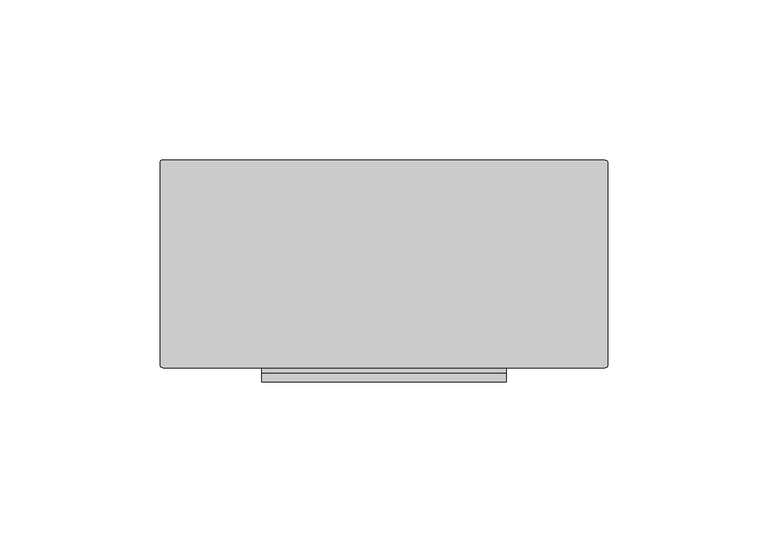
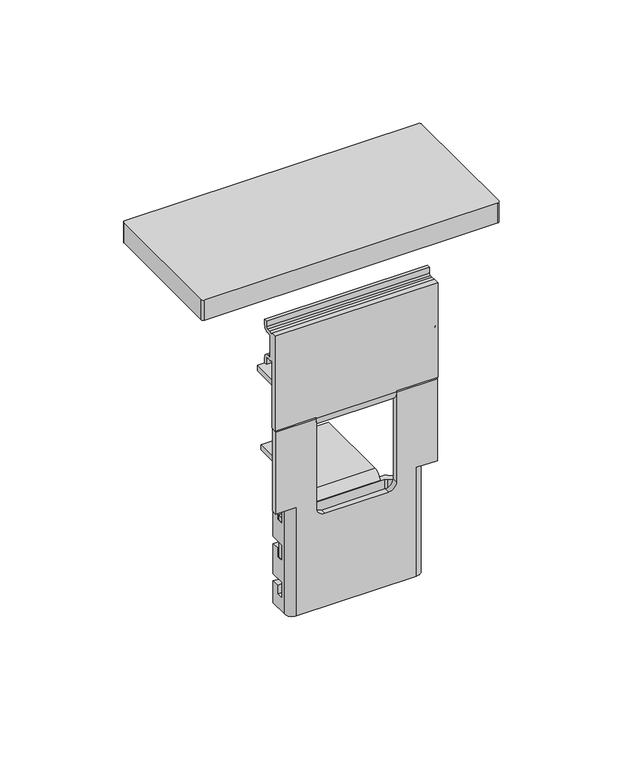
"""IFC4 building model written with IfcOpenShell, lengths in millimetres: furniture geometry, HON - Voi - Dean Power Module Clamp : Dean Power Module Clamp."""

from ifc_helpers import new_model, si_unit, point, frame, frame_2d, origin, place, context, project, spatial, polyline, circle_curve, ellipse_curve, trimmed, segment, composite_curve, outline, extrude, source, transform, mapped, element, save
from ifc_brep_helpers import plane_surface, cylinder_surface, revolved_surface, advanced_brep


def furniture_ea1fc38d(model_context):
    return source(origin(), model_context, "Body", "SolidModel", [
        advanced_brep(
        [(38.2728369, -5.3339995, 802.284387), (38.2728369, -5.3339995, 755.2308638), (38.2728369, -2.6670006, 755.2308638), (38.2728369, -2.6670006, 789.6605936), (38.2728369, -0.5643118, 787.7884211), (38.2728369, 0.9144004, 787.7884211), (38.2728369, 1.7017993, 787.0010222), (38.2728369, 1.7017993, 784.0800719), (38.2728369, 3.2003997, 784.0800719), (38.2728369, 3.2003997, 786.7211557), (38.2728369, 0.6345339, 789.2870215), (38.2728369, -1.1684001, 789.2870215), (38.2728369, -1.1684001, 800.4555742), (38.2728369, 0.6345339, 800.4555742), (38.2728369, 3.2003997, 803.02144), (38.2728369, 3.2003997, 805.6625238), (38.2728369, 1.7017993, 805.6625238), (38.2728369, 1.7017993, 802.7415735), (38.2728369, 0.9144004, 801.9541746), (38.2728369, -0.5643118, 801.9541746), (38.2728369, -2.6670006, 800.0745655), (38.2728369, -2.6670006, 802.284387), (-38.2728369, -2.6670006, 789.6605936), (-38.2728369, -2.6670006, 755.2308638), (-38.2728369, -5.3339995, 755.2308638), (-38.2728369, -5.3339995, 802.284387), (-38.2728369, -2.6670006, 802.284387), (-38.2728369, -2.6670006, 800.0745655), (-38.2728369, -0.5643118, 801.9541746), (-38.2728369, 0.9144004, 801.9541746), (-38.2728369, 1.7017993, 802.7415735), (-38.2728369, 1.7017993, 805.6625238), (-38.2728369, 3.2003997, 805.6625238), (-38.2728369, 3.2003997, 803.02144), (-38.2728369, 0.6345339, 800.4555742), (-38.2728369, -1.1684001, 800.4555742), (-38.2728369, -1.1684001, 789.2870215), (-38.2728369, 0.6345339, 789.2870215), (-38.2728369, 3.2003997, 786.7211557), (-38.2728369, 3.2003997, 784.0800719), (-38.2728369, 1.7017993, 784.0800719), (-38.2728369, 1.7017993, 787.0010222), (-38.2728369, 0.9144004, 787.7884211), (-38.2728369, -0.5643118, 787.7884211), (-18.7960002, -5.3339995, 755.2308638), (-18.7960002, -5.3339995, 754.750809), (18.7960002, -5.3339995, 754.750809), (18.7960002, -5.3339995, 755.2308638), (18.7960002, 0.3731531, 751.9669641), (18.7960002, 42.6838454, 751.9669641), (-18.7960002, 42.6838454, 751.9669641), (-18.7960002, 0.3731531, 751.9669641), (18.7960002, 42.6838454, 749.2999758), (-18.7960002, 42.6838454, 749.2999758), (18.7960002, 0.1168337, 749.2999758), (-18.7960002, 0.1168337, 749.2999758), (18.7960002, -2.6670006, 755.2308638), (18.7960002, -2.6670006, 755.0071178), (-18.7960002, -2.6670006, 755.0071178), (-18.7960002, -2.6670006, 755.2308638)],
        [
            (0, 1),
            (1, 2),
            (2, 3),
            (3, 4, circle_curve(frame((38.2728369, -0.7755579, 789.6680302), z_axis=(1.0, 0.0, 0.0), x_axis=(0.0, -1.0, 0.0)), 1.8914427)),
            (4, 5),
            (5, 6, circle_curve(frame((38.2728369, 0.9144004, 787.0010222), z_axis=(-1.0, 0.0, 0.0), x_axis=(0.0, -1.0, 0.0)), 0.7873989)),
            (6, 7),
            (7, 8),
            (8, 9),
            (9, 10, circle_curve(frame((38.2728369, 0.6345339, 786.7211557), z_axis=(1.0, 0.0, 0.0), x_axis=(0.0, -1.0, 0.0)), 2.5658658)),
            (10, 11),
            (11, 12),
            (12, 13),
            (13, 14, circle_curve(frame((38.2728369, 0.6345339, 803.02144), z_axis=(1.0, 0.0, 0.0), x_axis=(0.0, -1.0, 0.0)), 2.5658658)),
            (14, 15),
            (15, 16),
            (16, 17),
            (17, 18, circle_curve(frame((38.2728369, 0.9144004, 802.7415735), z_axis=(-1.0, 0.0, 0.0), x_axis=(0.0, -1.0, 0.0)), 0.7873989)),
            (18, 19),
            (19, 20, circle_curve(frame((38.2728369, -0.7755579, 800.0745655), z_axis=(1.0, 0.0, 0.0), x_axis=(0.0, -1.0, 0.0)), 1.8914427)),
            (20, 21),
            (21, 0),
            (22, 23),
            (23, 24),
            (24, 25),
            (25, 26),
            (26, 27),
            (27, 28, circle_curve(frame((-38.2728369, -0.7755579, 800.0745655), z_axis=(-1.0, 0.0, 0.0), x_axis=(0.0, -1.0, 0.0)), 1.8914427)),
            (28, 29),
            (29, 30, circle_curve(frame((-38.2728369, 0.9144004, 802.7415735), z_axis=(1.0, 0.0, 0.0), x_axis=(0.0, -1.0, 0.0)), 0.7873989)),
            (30, 31),
            (31, 32),
            (32, 33),
            (33, 34, circle_curve(frame((-38.2728369, 0.6345339, 803.02144), z_axis=(-1.0, 0.0, 0.0), x_axis=(0.0, -1.0, 0.0)), 2.5658658)),
            (34, 35),
            (35, 36),
            (36, 37),
            (37, 38, circle_curve(frame((-38.2728369, 0.6345339, 786.7211557), z_axis=(-1.0, 0.0, 0.0), x_axis=(0.0, -1.0, 0.0)), 2.5658658)),
            (38, 39),
            (39, 40),
            (40, 41),
            (41, 42, circle_curve(frame((-38.2728369, 0.9144004, 787.0010222), z_axis=(1.0, 0.0, 0.0), x_axis=(0.0, -1.0, 0.0)), 0.7873989)),
            (42, 43),
            (43, 22, circle_curve(frame((-38.2728369, -0.7755579, 789.6680302), z_axis=(-1.0, 0.0, 0.0), x_axis=(0.0, -1.0, 0.0)), 1.8914427)),
            (24, 44),
            (44, 45),
            (45, 46),
            (46, 47),
            (47, 1),
            (0, 25),
            (48, 49),
            (49, 50),
            (50, 51),
            (51, 48),
            (49, 52),
            (52, 53),
            (53, 50),
            (52, 54),
            (54, 55),
            (55, 53),
            (2, 56),
            (56, 57),
            (57, 58),
            (58, 59),
            (59, 23),
            (22, 3),
            (45, 55, circle_curve(frame((-18.7960002, 0.1168337, 754.750809), z_axis=(1.0, 0.0, 0.0), x_axis=(0.0, -1.0, 0.0)), 5.4508332)),
            (54, 46, circle_curve(frame((18.7960002, 0.1168337, 754.750809), z_axis=(-1.0, 0.0, 0.0), x_axis=(0.0, -1.0, 0.0)), 5.4508332)),
            (21, 26),
            (20, 27),
            (19, 28),
            (18, 29),
            (17, 30),
            (16, 31),
            (15, 32),
            (14, 33),
            (13, 34),
            (12, 35),
            (11, 36),
            (10, 37),
            (9, 38),
            (8, 39),
            (7, 40),
            (6, 41),
            (5, 42),
            (4, 43),
            (51, 58, circle_curve(frame((-18.7960002, 0.3731531, 755.0071178), z_axis=(-1.0, 0.0, 0.0), x_axis=(0.0, -1.0, 0.0)), 3.0401537)),
            (57, 48, circle_curve(frame((18.7960002, 0.3731531, 755.0071178), z_axis=(1.0, 0.0, 0.0), x_axis=(0.0, -1.0, 0.0)), 3.0401537)),
            (59, 44),
            (47, 56),
        ],
        [
            plane_surface(frame((38.2728369, -4.9889466, 749.2999758), z_axis=(1.0, 0.0, 0.0), x_axis=(0.0, -1.0, 0.0))),
            plane_surface(frame((-38.2728369, -4.9889466, 749.2999758), z_axis=(-1.0, 0.0, 0.0), x_axis=(0.0, 1.0, 0.0))),
            plane_surface(frame((38.2728369, -5.3339995, 754.750809), z_axis=(0.0, -1.0, 0.0), x_axis=(-1.0, 0.0, 0.0))),
            plane_surface(frame((38.2728369, 0.3731531, 751.9669641), z_axis=(0.0, 0.0, 1.0), x_axis=(-1.0, 0.0, 0.0))),
            plane_surface(frame((38.2728369, 42.6838454, 751.9669641), z_axis=(0.0, 1.0, 0.0), x_axis=(-1.0, 0.0, 0.0))),
            plane_surface(frame((38.2728369, 42.6838454, 749.2999758), z_axis=(0.0, 0.0, -1.0), x_axis=(-1.0, 0.0, 0.0))),
            plane_surface(frame((38.2728369, -2.6670006, 789.6605936), z_axis=(0.0, 1.0, 0.0), x_axis=(-1.0, 0.0, 0.0))),
            cylinder_surface(frame((-38.2728369, 0.1168337, 754.750809), z_axis=(1.0, 0.0, 0.0), x_axis=(0.0, -1.0, 0.0)), 5.4508332),
            plane_surface(frame((38.2728369, -5.3339995, 802.284387), z_axis=(0.0, 0.0, 1.0), x_axis=(-1.0, 0.0, 0.0))),
            plane_surface(frame((38.2728369, -2.6670006, 802.284387), z_axis=(0.0, 1.0, 0.0), x_axis=(-1.0, 0.0, 0.0))),
            cylinder_surface(frame((-38.2728369, -0.7755579, 800.0745655), z_axis=(1.0, 0.0, 0.0), x_axis=(0.0, -1.0, 0.0)), 1.8914427),
            plane_surface(frame((38.2728369, -0.5643118, 801.9541746), z_axis=(0.0, 0.0, 1.0), x_axis=(-1.0, 0.0, 0.0))),
            revolved_surface(polyline([(-38.2728369, 0.1270015, 802.7415735), (38.2728369, 0.1270015, 802.7415735)]), (-38.2728369, 0.9144004, 802.7415735), (-1.0, 0.0, 0.0)),
            plane_surface(frame((38.2728369, 1.7017993, 802.7415735), z_axis=(0.0, -1.0, 0.0), x_axis=(-1.0, 0.0, 0.0))),
            plane_surface(frame((38.2728369, 1.7017993, 805.6625238), z_axis=(0.0, 0.0, 1.0), x_axis=(-1.0, 0.0, 0.0))),
            plane_surface(frame((38.2728369, 3.2003997, 805.6625238), z_axis=(0.0, 1.0, 0.0), x_axis=(-1.0, 0.0, 0.0))),
            cylinder_surface(frame((-38.2728369, 0.6345339, 803.02144), z_axis=(1.0, 0.0, 0.0), x_axis=(0.0, -1.0, 0.0)), 2.5658658),
            plane_surface(frame((38.2728369, 0.6345339, 800.4555742), z_axis=(0.0, 0.0, -1.0), x_axis=(-1.0, 0.0, 0.0))),
            plane_surface(frame((38.2728369, -1.1684001, 800.4555742), z_axis=(0.0, 1.0, 0.0), x_axis=(-1.0, 0.0, 0.0))),
            plane_surface(frame((38.2728369, -1.1684001, 789.2870215), z_axis=(0.0, 0.0, 1.0), x_axis=(-1.0, 0.0, 0.0))),
            cylinder_surface(frame((-38.2728369, 0.6345339, 786.7211557), z_axis=(1.0, 0.0, 0.0), x_axis=(0.0, -1.0, 0.0)), 2.5658658),
            plane_surface(frame((38.2728369, 3.2003997, 786.7211557), z_axis=(0.0, 1.0, 0.0), x_axis=(-1.0, 0.0, 0.0))),
            plane_surface(frame((38.2728369, 3.2003997, 784.0800719), z_axis=(0.0, 0.0, -1.0), x_axis=(-1.0, 0.0, 0.0))),
            plane_surface(frame((38.2728369, 1.7017993, 784.0800719), z_axis=(0.0, -1.0, 0.0), x_axis=(-1.0, 0.0, 0.0))),
            revolved_surface(polyline([(-38.2728369, 0.1270015, 787.0010222), (38.2728369, 0.1270015, 787.0010222)]), (-38.2728369, 0.9144004, 787.0010222), (-1.0, 0.0, 0.0)),
            plane_surface(frame((38.2728369, 0.9144004, 787.7884211), z_axis=(0.0, 0.0, -1.0), x_axis=(-1.0, 0.0, 0.0))),
            cylinder_surface(frame((-38.2728369, -0.7755579, 789.6680302), z_axis=(1.0, 0.0, 0.0), x_axis=(0.0, -1.0, 0.0)), 1.8914427),
            revolved_surface(polyline([(-18.7960002, -2.6670005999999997, 755.0071178), (18.7960002, -2.6670005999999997, 755.0071178)]), (-38.2728369, 0.3731531, 755.0071178), (-1.0, 0.0, 0.0)),
            plane_surface(frame((-18.7960002, -9.9693452, 755.2308638), z_axis=(0.0, 0.0, -1.0), x_axis=(-1.0, 0.0, 0.0))),
            plane_surface(frame((-18.7960002, 47.1806548, 755.2308638), z_axis=(-1.0, 0.0, 0.0), x_axis=(0.0, 0.0, -1.0))),
            plane_surface(frame((18.7960002, -9.9693452, 755.2308638), z_axis=(1.0, 0.0, 0.0), x_axis=(0.0, 0.0, -1.0))),
        ],
        [
            (0, [[1, 2, 3, 4, 5, 6, 7, 8, 9, 10, 11, 12, 13, 14, 15, 16, 17, 18, 19, 20, 21, 22]]),
            (1, [[23, 24, 25, 26, 27, 28, 29, 30, 31, 32, 33, 34, 35, 36, 37, 38, 39, 40, 41, 42, 43, 44]]),
            (2, [[-25, 45, 46, 47, 48, 49, -1, 50]]),
            (3, [[51, 52, 53, 54]]),
            (4, [[55, 56, 57, -52]]),
            (5, [[58, 59, 60, -56]]),
            (6, [[-3, 61, 62, 63, 64, 65, -23, 66]]),
            (7, [[67, -59, 68, -47]]),
            (8, [[69, -26, -50, -22]]),
            (9, [[70, -27, -69, -21]]),
            (10, [[71, -28, -70, -20]]),
            (11, [[72, -29, -71, -19]]),
            (12, [[73, -30, -72, -18]]),
            (13, [[74, -31, -73, -17]]),
            (14, [[75, -32, -74, -16]]),
            (15, [[76, -33, -75, -15]]),
            (16, [[77, -34, -76, -14]]),
            (17, [[78, -35, -77, -13]]),
            (18, [[79, -36, -78, -12]]),
            (19, [[80, -37, -79, -11]]),
            (20, [[81, -38, -80, -10]]),
            (21, [[82, -39, -81, -9]]),
            (22, [[83, -40, -82, -8]]),
            (23, [[84, -41, -83, -7]]),
            (24, [[85, -42, -84, -6]]),
            (25, [[86, -43, -85, -5]]),
            (26, [[-66, -44, -86, -4]]),
            (27, [[87, -63, 88, -54]]),
            (28, [[-45, -24, -65, 89]]),
            (28, [[-61, -2, -49, 90]]),
            (29, [[-64, -87, -53, -57, -60, -67, -46, -89]]),
            (30, [[-48, -68, -58, -55, -51, -88, -62, -90]]),
        ],
    ),
        extrude(outline(composite_curve([segment(polyline([(-68.9838368, 64.0695505), (68.9857812, 63.9343572)]), True, "CONTINUOUS"), segment(trimmed(circle_curve(frame_2d((68.984809, 62.9421701)), 0.9921875), [point((68.9857812, 63.9343572))], [point((69.9769965, 62.9421702))], False, "CARTESIAN"), True, "CONTINUOUS"), segment(polyline([(69.9769965, 62.9421702), (69.9770017, 0.0777903)]), True, "CONTINUOUS"), segment(trimmed(circle_curve(frame_2d((68.9848142, 0.0777902)), 0.9921875), [point((69.9770017, 0.0777903))], [point((68.9848142, -0.9143973))], False, "CARTESIAN"), True, "CONTINUOUS"), segment(polyline([(68.9848142, -0.9143973), (-68.975684, -0.9143973)]), True, "CONTINUOUS"), segment(trimmed(circle_curve(frame_2d((-68.975684, 0.0869204)), 1.0013177), [point((-68.975684, -0.9143973))], [point((-69.9770017, 0.0869205))], False, "CARTESIAN"), True, "CONTINUOUS"), segment(polyline([(-69.9770017, 0.0869205), (-69.9769965, 63.0773635)]), True, "CONTINUOUS"), segment(trimmed(circle_curve(frame_2d((-68.984809, 63.0773634)), 0.9921875), [point((-69.9769965, 63.0773635))], [point((-68.9838368, 64.0695505))], False, "CARTESIAN"), True, "CONTINUOUS")], self_intersect=False)), frame((0.0, 0.0, 818.4671973), z_axis=(0.0, 0.0, 1.0), x_axis=(1.0, 0.0, 0.0)), (0.0, 0.0, 1.0), 10.0373406),
        advanced_brep(
        [(-38.1, -2.6670006, 713.8669641), (-38.1, -5.3339995, 713.8669641), (-38.1, -5.3339995, 754.6339525), (-38.1, -2.6670006, 754.6339525), (-18.8083569, -2.6670006, 710.0172476), (-18.8083569, -2.6670006, 754.6339525), (-18.8083569, -5.3339995, 754.6339525), (-18.8083569, -5.3339995, 710.0172476), (18.8083569, -2.6670006, 754.6339525), (18.8083569, -5.3339995, 754.6339525), (38.1, -5.3339995, 754.6339525), (38.1, -2.6670006, 754.6339525), (18.8083569, -2.6670006, 710.0463545), (18.8083569, -5.3339995, 710.0463545), (38.1, -5.3339995, 713.8669641), (38.1, -2.6670006, 713.8669641), (-31.7547921, -2.6670006, 713.8669641), (-28.2804197, -5.3339995, 713.8669641), (28.2804197, -5.3339995, 713.8669641), (31.7547921, -2.6670006, 713.8669641), (-15.0380444, -5.3339995, 706.2469351), (-15.0380444, -2.6670006, 706.2469351), (15.0089375, -5.3339995, 706.2469351), (15.0089375, -2.6670006, 706.2469351), (-29.2099994, -1.5345572, 713.8669641), (-29.2099994, 0.2539998, 713.8669641), (-31.8769991, 0.2539998, 713.8669641), (-31.8769991, -1.7374201, 713.8669641), (-28.077556, -2.6670006, 713.8669641), (28.077556, -2.6670006, 713.8669641), (31.8769991, -1.7374201, 713.8669641), (31.8769991, 0.2539998, 713.8669641), (29.2099994, 0.2539998, 713.8669641), (29.2099994, -1.5345572, 713.8669641), (-29.2099994, -1.5345572, 659.8919884), (-28.077556, -2.6670006, 659.8919884), (28.077556, -2.6670006, 659.8919884), (29.2099994, -1.5345572, 659.8919884), (29.2099994, 7.3659998, 659.8919884), (31.8769991, 7.3659998, 659.8919884), (31.8769991, -1.7374201, 659.8919884), (28.2804197, -5.3339995, 659.8919884), (-28.2804197, -5.3339995, 659.8919884), (-31.8769991, -1.7374201, 659.8919884), (-31.8769991, 7.3659998, 659.8919884), (-29.2099994, 7.3659998, 659.8919884), (29.2099994, 0.2539998, 703.5799467), (29.2099994, 3.8100009, 703.5799467), (29.2099994, 3.8100009, 707.8979971), (29.2099994, 7.3659998, 707.8979971), (29.2099994, 7.3659998, 692.9119932), (29.2099994, 0.2539998, 692.9119932), (29.2099994, 0.2539998, 685.0379099), (29.2099994, 3.8100009, 685.0379099), (29.2099994, 3.8100009, 689.3559603), (29.2099994, 7.3659998, 689.3559603), (29.2099994, 7.3659998, 674.3699564), (29.2099994, 0.2539998, 674.3699564), (29.2099994, 0.2539998, 666.4958731), (29.2099994, 3.8100009, 666.4958731), (29.2099994, 3.8100009, 670.8139235), (29.2099994, 7.3659998, 670.8139235), (31.8769991, 7.3659998, 670.8139235), (31.8769991, 7.3659998, 689.3559603), (31.8769991, 7.3659998, 674.3699564), (31.8769991, 7.3659998, 707.8979971), (31.8769991, 7.3659998, 692.9119932), (31.8769991, 3.8100009, 670.8139235), (31.8769991, 3.8100009, 666.4958731), (31.8769991, 0.2539998, 666.4958731), (31.8769991, 0.2539998, 674.3699564), (31.8769991, 3.8100009, 689.3559603), (31.8769991, 3.8100009, 685.0379099), (31.8769991, 0.2539998, 685.0379099), (31.8769991, 0.2539998, 692.9119932), (31.8769991, 3.8100009, 707.8979971), (31.8769991, 3.8100009, 703.5799467), (31.8769991, 0.2539998, 703.5799467), (-31.8769991, 0.2539998, 703.5799467), (-31.8769991, 3.8100009, 703.5799467), (-31.8769991, 3.8100009, 707.8979971), (-31.8769991, 7.3659998, 707.8979971), (-31.8769991, 7.3659998, 692.9119932), (-31.8769991, 0.2539998, 692.9119932), (-31.8769991, 0.2539998, 685.0379099), (-31.8769991, 3.8100009, 685.0379099), (-31.8769991, 3.8100009, 689.3559603), (-31.8769991, 7.3659998, 689.3559603), (-31.8769991, 7.3659998, 674.3699564), (-31.8769991, 0.2539998, 674.3699564), (-31.8769991, 0.2539998, 666.4958731), (-31.8769991, 3.8100009, 666.4958731), (-31.8769991, 3.8100009, 670.8139235), (-31.8769991, 7.3659998, 670.8139235), (-29.2099994, 7.3659998, 670.8139235), (-29.2099994, 7.3659998, 689.3559603), (-29.2099994, 7.3659998, 674.3699564), (-29.2099994, 7.3659998, 707.8979971), (-29.2099994, 7.3659998, 692.9119932), (-29.2099994, 3.8100009, 670.8139235), (-29.2099994, 3.8100009, 666.4958731), (-29.2099994, 0.2539998, 666.4958731), (-29.2099994, 0.2539998, 674.3699564), (-29.2099994, 3.8100009, 689.3559603), (-29.2099994, 3.8100009, 685.0379099), (-29.2099994, 0.2539998, 685.0379099), (-29.2099994, 0.2539998, 692.9119932), (-29.2099994, 3.8100009, 707.8979971), (-29.2099994, 3.8100009, 703.5799467), (-29.2099994, 0.2539998, 703.5799467)],
        [
            (0, 1),
            (1, 2),
            (2, 3),
            (3, 0),
            (4, 5),
            (5, 6),
            (6, 7),
            (7, 4),
            (2, 6),
            (5, 3),
            (8, 9),
            (9, 10),
            (10, 11),
            (11, 8),
            (8, 12),
            (12, 13),
            (13, 9),
            (10, 14),
            (14, 15),
            (15, 11),
            (0, 16),
            (16, 17, circle_curve(frame((-28.2804197, -1.7374201, 713.8669641), z_axis=(0.0, 0.0, 1.0), x_axis=(1.0, 0.0, 0.0)), 3.5965794)),
            (17, 1),
            (14, 18),
            (18, 19, circle_curve(frame((28.2804197, -1.7374201, 713.8669641), z_axis=(0.0, 0.0, 1.0), x_axis=(-1.0, 0.0, 0.0)), 3.5965794)),
            (19, 15),
            (7, 20, circle_curve(frame((-15.0380444, -5.3339995, 710.0172476), z_axis=(0.0, -1.0, 0.0), x_axis=(1.0, 0.0, 0.0)), 3.7703125)),
            (20, 21),
            (21, 4, circle_curve(frame((-15.0380444, -2.6670006, 710.0172476), z_axis=(0.0, 1.0, 0.0), x_axis=(1.0, 0.0, 0.0)), 3.7703125)),
            (20, 22),
            (22, 23),
            (23, 21),
            (22, 13, circle_curve(frame((15.0089375, -5.3339995, 710.0463545), z_axis=(0.0, -1.0, 0.0), x_axis=(1.0, 0.0, 0.0)), 3.7994194)),
            (12, 23, circle_curve(frame((15.0089375, -2.6670006, 710.0463545), z_axis=(0.0, 1.0, 0.0), x_axis=(1.0, 0.0, 0.0)), 3.7994194)),
            (24, 25),
            (25, 26),
            (26, 27),
            (27, 16, circle_curve(frame((-28.2804197, -1.7374201, 713.8669641), z_axis=(0.0, 0.0, 1.0), x_axis=(1.0, 0.0, 0.0)), 3.5965794)),
            (16, 28),
            (28, 24, circle_curve(frame((-28.077556, -1.5345572, 713.8669641), z_axis=(0.0, 0.0, -1.0), x_axis=(1.0, 0.0, 0.0)), 1.1324434)),
            (29, 19),
            (19, 30, circle_curve(frame((28.2804197, -1.7374201, 713.8669641), z_axis=(0.0, 0.0, 1.0), x_axis=(-1.0, 0.0, 0.0)), 3.5965794)),
            (30, 31),
            (31, 32),
            (32, 33),
            (33, 29, circle_curve(frame((28.077556, -1.5345572, 713.8669641), z_axis=(0.0, 0.0, -1.0), x_axis=(-1.0, 0.0, 0.0)), 1.1324434)),
            (34, 35, circle_curve(frame((-28.077556, -1.5345572, 659.8919884), z_axis=(0.0, 0.0, 1.0), x_axis=(1.0, 0.0, 0.0)), 1.1324434)),
            (35, 36),
            (36, 37, circle_curve(frame((28.077556, -1.5345572, 659.8919884), z_axis=(0.0, 0.0, 1.0), x_axis=(-1.0, 0.0, 0.0)), 1.1324434)),
            (37, 38),
            (38, 39),
            (39, 40),
            (40, 41, circle_curve(frame((28.2804197, -1.7374201, 659.8919884), z_axis=(0.0, 0.0, -1.0), x_axis=(-1.0, 0.0, 0.0)), 3.5965794)),
            (41, 42),
            (42, 43, circle_curve(frame((-28.2804197, -1.7374201, 659.8919884), z_axis=(0.0, 0.0, -1.0), x_axis=(1.0, 0.0, 0.0)), 3.5965794)),
            (43, 44),
            (44, 45),
            (45, 34),
            (28, 35),
            (34, 24),
            (29, 36),
            (33, 37),
            (32, 46),
            (46, 47),
            (47, 48),
            (48, 49),
            (49, 50),
            (50, 51),
            (51, 52),
            (52, 53),
            (53, 54),
            (54, 55),
            (55, 56),
            (56, 57),
            (57, 58),
            (58, 59),
            (59, 60),
            (60, 61),
            (61, 38),
            (61, 62),
            (62, 39),
            (55, 63),
            (63, 64),
            (64, 56),
            (49, 65),
            (65, 66),
            (66, 50),
            (62, 67),
            (67, 68),
            (68, 69),
            (69, 70),
            (70, 64),
            (63, 71),
            (71, 72),
            (72, 73),
            (73, 74),
            (74, 66),
            (65, 75),
            (75, 76),
            (76, 77),
            (77, 31),
            (30, 40),
            (18, 41),
            (17, 42),
            (27, 43),
            (26, 78),
            (78, 79),
            (79, 80),
            (80, 81),
            (81, 82),
            (82, 83),
            (83, 84),
            (84, 85),
            (85, 86),
            (86, 87),
            (87, 88),
            (88, 89),
            (89, 90),
            (90, 91),
            (91, 92),
            (92, 93),
            (93, 44),
            (93, 94),
            (94, 45),
            (87, 95),
            (95, 96),
            (96, 88),
            (81, 97),
            (97, 98),
            (98, 82),
            (94, 99),
            (99, 100),
            (100, 101),
            (101, 102),
            (102, 96),
            (95, 103),
            (103, 104),
            (104, 105),
            (105, 106),
            (106, 98),
            (97, 107),
            (107, 108),
            (108, 109),
            (109, 25),
            (47, 76),
            (75, 48),
            (79, 108),
            (107, 80),
            (46, 77),
            (78, 109),
            (54, 71),
            (86, 103),
            (53, 72),
            (85, 104),
            (52, 73),
            (84, 105),
            (51, 74),
            (83, 106),
            (60, 67),
            (92, 99),
            (59, 68),
            (91, 100),
            (58, 69),
            (90, 101),
            (57, 70),
            (89, 102),
        ],
        [
            plane_surface(frame((-38.1, -2.6670006, 754.6339525), z_axis=(-1.0, 0.0, 0.0), x_axis=(0.0, -1.0, 0.0))),
            plane_surface(frame((-18.8083569, -2.6670006, 713.8669641), z_axis=(1.0, 0.0, 0.0), x_axis=(0.0, -1.0, 0.0))),
            plane_surface(frame((-18.8083569, -2.6670006, 754.6339525), z_axis=(0.0, 0.0, 1.0), x_axis=(0.0, -1.0, 0.0))),
            plane_surface(frame((38.1, -2.6670006, 754.6339525), z_axis=(0.0, 0.0, 1.0), x_axis=(0.0, -1.0, 0.0))),
            plane_surface(frame((18.8083569, -2.6670006, 754.6339525), z_axis=(-1.0, 0.0, 0.0), x_axis=(0.0, -1.0, 0.0))),
            plane_surface(frame((38.1, -2.6670006, 713.8669641), z_axis=(1.0, 0.0, 0.0), x_axis=(0.0, -1.0, 0.0))),
            plane_surface(frame((-38.1, -2.6670006, 713.8669641), z_axis=(0.0, 0.0, -1.0), x_axis=(0.0, -1.0, 0.0))),
            plane_surface(frame((18.8083569, -2.6670006, 713.8669641), z_axis=(0.0, 0.0, -1.0), x_axis=(0.0, -1.0, 0.0))),
            revolved_surface(polyline([(-11.267731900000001, -2.6670006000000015, 710.0172476), (-11.267731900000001, -5.333999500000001, 710.0172476)]), (-15.0380444, -18.6836548, 710.0172476), (0.0, 1.0, 0.0)),
            plane_surface(frame((-15.0380444, 0.0, 706.2469351), z_axis=(0.0, 0.0, 1.0), x_axis=(0.0, -1.0, 0.0))),
            revolved_surface(polyline([(18.8083569, -2.6670006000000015, 710.0463545), (18.8083569, -5.333999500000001, 710.0463545)]), (15.0089375, -18.6836548, 710.0463545), (0.0, 1.0, 0.0)),
            plane_surface(frame((-26.9451127, -1.5345572, 713.8669641), z_axis=(0.0, 0.0, 1.0), x_axis=(0.0, 1.0, 0.0))),
            plane_surface(frame((-26.9451127, -1.5345572, 659.8919884), z_axis=(0.0, 0.0, -1.0), x_axis=(0.0, -1.0, 0.0))),
            revolved_surface(polyline([(-26.9451126, -1.5345572, 659.8919884), (-26.9451126, -1.5345572, 713.8669641)]), (-28.077556, -1.5345572, 659.8919884), (0.0, 0.0, -1.0)),
            plane_surface(frame((-28.077556, -2.6670006, 713.8669641), z_axis=(0.0, 1.0, 0.0), x_axis=(0.0, 0.0, -1.0))),
            revolved_surface(polyline([(26.9451126, -1.5345572, 659.8919884), (26.9451126, -1.5345572, 713.8669641)]), (28.077556, -1.5345572, 659.8919884), (0.0, 0.0, -1.0)),
            plane_surface(frame((29.2099994, -1.5345572, 713.8669641), z_axis=(-1.0, 0.0, 0.0), x_axis=(0.0, 0.0, -1.0))),
            plane_surface(frame((29.2099994, 7.3659998, 713.8669641), z_axis=(0.0, 1.0, 0.0), x_axis=(0.0, 0.0, -1.0))),
            plane_surface(frame((31.8769991, 7.3659998, 713.8669641), z_axis=(1.0, 0.0, 0.0), x_axis=(0.0, 0.0, -1.0))),
            cylinder_surface(frame((28.2804197, -1.7374201, 659.8919884), z_axis=(0.0, 0.0, 1.0), x_axis=(-1.0, 0.0, 0.0)), 3.5965794),
            plane_surface(frame((28.2804197, -5.3339995, 713.8669641), z_axis=(0.0, -1.0, 0.0), x_axis=(0.0, 0.0, -1.0))),
            cylinder_surface(frame((-28.2804197, -1.7374201, 659.8919884), z_axis=(0.0, 0.0, 1.0), x_axis=(1.0, 0.0, 0.0)), 3.5965794),
            plane_surface(frame((-31.8769991, -1.7374201, 713.8669641), z_axis=(-1.0, 0.0, 0.0), x_axis=(0.0, 0.0, -1.0))),
            plane_surface(frame((-31.8769991, 7.3659998, 713.8669641), z_axis=(0.0, 1.0, 0.0), x_axis=(0.0, 0.0, -1.0))),
            plane_surface(frame((-29.2099994, 7.3659998, 713.8669641), z_axis=(1.0, 0.0, 0.0), x_axis=(0.0, 0.0, -1.0))),
            plane_surface(frame((57.3484768, 3.8100009, 707.8979971), z_axis=(0.0, -1.0, 0.0), x_axis=(-1.0, 0.0, 0.0))),
            plane_surface(frame((57.3484768, 3.8100009, 703.5799467), z_axis=(0.0, 0.0, 1.0), x_axis=(-1.0, 0.0, 0.0))),
            plane_surface(frame((57.3484768, 0.2539998, 703.5799467), z_axis=(0.0, 1.0, 0.0), x_axis=(-1.0, 0.0, 0.0))),
            plane_surface(frame((57.3484768, 7.3659998, 707.8979971), z_axis=(0.0, 0.0, 1.0), x_axis=(-1.0, 0.0, 0.0))),
            plane_surface(frame((57.3484768, 7.3659998, 689.3559603), z_axis=(0.0, 0.0, 1.0), x_axis=(-1.0, 0.0, 0.0))),
            plane_surface(frame((57.3484768, 3.8100009, 689.3559603), z_axis=(0.0, -1.0, 0.0), x_axis=(-1.0, 0.0, 0.0))),
            plane_surface(frame((57.3484768, 3.8100009, 685.0379099), z_axis=(0.0, 0.0, 1.0), x_axis=(-1.0, 0.0, 0.0))),
            plane_surface(frame((57.3484768, 0.2539998, 685.0379099), z_axis=(0.0, 1.0, 0.0), x_axis=(-1.0, 0.0, 0.0))),
            plane_surface(frame((57.3484768, 0.2539998, 692.9119932), z_axis=(0.0, 0.0, -1.0), x_axis=(-1.0, 0.0, 0.0))),
            plane_surface(frame((57.3484768, 7.3659998, 670.8139235), z_axis=(0.0, 0.0, 1.0), x_axis=(-1.0, 0.0, 0.0))),
            plane_surface(frame((57.3484768, 3.8100009, 670.8139235), z_axis=(0.0, -1.0, 0.0), x_axis=(-1.0, 0.0, 0.0))),
            plane_surface(frame((57.3484768, 3.8100009, 666.4958731), z_axis=(0.0, 0.0, 1.0), x_axis=(-1.0, 0.0, 0.0))),
            plane_surface(frame((57.3484768, 0.2539998, 666.4958731), z_axis=(0.0, 1.0, 0.0), x_axis=(-1.0, 0.0, 0.0))),
            plane_surface(frame((57.3484768, 0.2539998, 674.3699564), z_axis=(0.0, 0.0, -1.0), x_axis=(-1.0, 0.0, 0.0))),
        ],
        [
            (0, [[1, 2, 3, 4]]),
            (1, [[5, 6, 7, 8]]),
            (2, [[-3, 9, -6, 10]]),
            (3, [[11, 12, 13, 14]]),
            (4, [[15, 16, 17, -11]]),
            (5, [[-13, 18, 19, 20]]),
            (6, [[21, 22, 23, -1]]),
            (7, [[24, 25, 26, -19]]),
            (8, [[27, 28, 29, -8]]),
            (9, [[30, 31, 32, -28]]),
            (10, [[33, -16, 34, -31]]),
            (11, [[35, 36, 37, 38, 39, 40]]),
            (11, [[41, 42, 43, 44, 45, 46]]),
            (12, [[47, 48, 49, 50, 51, 52, 53, 54, 55, 56, 57, 58]]),
            (13, [[59, -47, 60, -40]]),
            (14, [[-59, -39, -21, -4, -10, -5, -29, -32, -34, -15, -14, -20, -26, -41, 61, -48]]),
            (15, [[62, -49, -61, -46]]),
            (16, [[-62, -45, 63, 64, 65, 66, 67, 68, 69, 70, 71, 72, 73, 74, 75, 76, 77, 78, 79, -50]]),
            (17, [[-79, 80, 81, -51]]),
            (17, [[82, 83, 84, -73]]),
            (17, [[85, 86, 87, -67]]),
            (18, [[-81, 88, 89, 90, 91, 92, -83, 93, 94, 95, 96, 97, -86, 98, 99, 100, 101, -43, 102, -52]]),
            (19, [[-102, -42, -25, 103, -53]]),
            (20, [[-103, -24, -18, -12, -17, -33, -30, -27, -7, -9, -2, -23, 104, -54]]),
            (21, [[-104, -22, -38, 105, -55]]),
            (22, [[-105, -37, 106, 107, 108, 109, 110, 111, 112, 113, 114, 115, 116, 117, 118, 119, 120, 121, 122, -56]]),
            (23, [[-122, 123, 124, -57]]),
            (23, [[125, 126, 127, -116]]),
            (23, [[128, 129, 130, -110]]),
            (24, [[-124, 131, 132, 133, 134, 135, -126, 136, 137, 138, 139, 140, -129, 141, 142, 143, 144, -35, -60, -58]]),
            (25, [[-65, 145, -99, 146]]),
            (25, [[-108, 147, -142, 148]]),
            (26, [[-64, 149, -100, -145]]),
            (26, [[-107, 150, -143, -147]]),
            (27, [[-63, -44, -101, -149]]),
            (27, [[-106, -36, -144, -150]]),
            (28, [[-98, -85, -66, -146]]),
            (28, [[-141, -128, -109, -148]]),
            (29, [[-93, -82, -72, 151]]),
            (29, [[-136, -125, -115, 152]]),
            (30, [[-71, 153, -94, -151]]),
            (30, [[-114, 154, -137, -152]]),
            (31, [[-70, 155, -95, -153]]),
            (31, [[-113, 156, -138, -154]]),
            (32, [[-69, 157, -96, -155]]),
            (32, [[-112, 158, -139, -156]]),
            (33, [[-68, -87, -97, -157]]),
            (33, [[-111, -130, -140, -158]]),
            (34, [[-88, -80, -78, 159]]),
            (34, [[-131, -123, -121, 160]]),
            (35, [[-77, 161, -89, -159]]),
            (35, [[-120, 162, -132, -160]]),
            (36, [[-76, 163, -90, -161]]),
            (36, [[-119, 164, -133, -162]]),
            (37, [[-75, 165, -91, -163]]),
            (37, [[-118, 166, -134, -164]]),
            (38, [[-74, -84, -92, -165]]),
            (38, [[-117, -127, -135, -166]]),
        ],
    ),
        extrude(outline(composite_curve([segment(polyline([(-18.7745759, 5.8588902), (18.7745759, 5.8588902)]), True, "CONTINUOUS"), segment(trimmed(circle_curve(frame_2d((18.7745759, 2.701767)), 3.1571232), [point((18.7745759, 5.8588902))], [point((20.6965126, 5.2064798))], False, "CARTESIAN"), True, "CONTINUOUS"), segment(polyline([(20.6965126, 5.2064798), (23.0173529, 3.4256336)]), True, "CONTINUOUS"), segment(trimmed(circle_curve(frame_2d((24.1298235, 4.8754313)), 1.8274311), [point((23.0173529, 3.4256336))], [point((24.1298235, 3.0480002))], True, "CARTESIAN"), True, "CONTINUOUS"), segment(polyline([(24.1298235, 3.0480002), (31.7499357, 3.0480002), (31.7499357, 0.369094), (24.1298235, 0.369094)]), True, "CONTINUOUS"), segment(trimmed(circle_curve(frame_2d((24.1298235, 4.8754313)), 4.5063373), [point((24.1298235, 0.369094))], [point((21.3865364, 1.3003156))], False, "CARTESIAN"), True, "CONTINUOUS"), segment(polyline([(21.3865364, 1.3003156), (19.4513342, 2.7852508)]), True, "CONTINUOUS"), segment(trimmed(circle_curve(frame_2d((18.2884895, 1.2698045)), 1.9101795), [point((19.4513342, 2.7852508))], [point((18.2884895, 3.1799839))], True, "CARTESIAN"), True, "CONTINUOUS"), segment(polyline([(18.2884895, 3.1799839), (-18.2884895, 3.1799839)]), True, "CONTINUOUS"), segment(trimmed(circle_curve(frame_2d((-18.2884895, 1.2698045)), 1.9101795), [point((-18.2884895, 3.1799839))], [point((-19.4513342, 2.7852508))], True, "CARTESIAN"), True, "CONTINUOUS"), segment(polyline([(-19.4513342, 2.7852508), (-21.3865364, 1.3003156)]), True, "CONTINUOUS"), segment(trimmed(circle_curve(frame_2d((-24.1298235, 4.8754313)), 4.5063373), [point((-21.3865364, 1.3003156))], [point((-24.1298235, 0.369094))], False, "CARTESIAN"), True, "CONTINUOUS"), segment(polyline([(-24.1298235, 0.369094), (-31.7499357, 0.369094), (-31.7499357, 3.0480002), (-24.1298235, 3.0480002)]), True, "CONTINUOUS"), segment(trimmed(circle_curve(frame_2d((-24.1298235, 4.8754313)), 1.8274311), [point((-24.1298235, 3.0480002))], [point((-23.0173529, 3.4256336))], True, "CARTESIAN"), True, "CONTINUOUS"), segment(polyline([(-23.0173529, 3.4256336), (-20.6965126, 5.2064798)]), True, "CONTINUOUS"), segment(trimmed(circle_curve(frame_2d((-18.7745759, 2.701767)), 3.1571232), [point((-20.6965126, 5.2064798))], [point((-18.7745759, 5.8588902))], False, "CARTESIAN"), True, "CONTINUOUS")], self_intersect=False)), frame((0.0, 0.0, 678.3357227), z_axis=(0.0, 0.0, 1.0), x_axis=(1.0, 0.0, 0.0)), (0.0, 0.0, 1.0), 27.9112124),
        advanced_brep(
        [(-0.9284318, 32.9241734, 726.3699074), (1.1442679, 32.9241734, 726.3699074), (2.7822547, 34.1584849, 726.3699074), (3.4496569, 36.0967619, 726.3699074), (2.8148804, 38.0504031, 726.3699074), (1.2024782, 39.2654354, 726.3699074), (-0.9256741, 39.2654354, 726.3699074), (-2.5726566, 38.024345, 726.3699074), (-3.2301668, 36.1147968, 726.3699074), (-2.6036348, 34.1865294, 726.3699074), (-0.9284318, 32.9241734, 694.9755301), (-2.6036348, 34.1865294, 694.9755301), (-3.2301668, 36.1147968, 694.9755301), (-2.5726566, 38.024345, 694.9755301), (-0.9256741, 39.2654354, 694.9755301), (1.2024782, 39.2654354, 694.9755301), (2.8148804, 38.0504031, 694.9755301), (3.4496569, 36.0967619, 694.9755301), (2.7822547, 34.1584849, 694.9755301), (1.1442679, 32.9241734, 694.9755301), (-0.9284318, 32.9241734, 707.5804293), (-2.6036348, 34.1865294, 707.5804293), (-2.6036348, 34.1865294, 710.2474176), (-0.9284318, 32.9241734, 710.2474176), (-3.2301668, 36.1147968, 707.5804293), (-3.2301668, 36.1147968, 710.2474176), (-2.5726566, 38.024345, 707.5804293), (-2.5726566, 38.024345, 710.2474176), (-0.9256741, 39.2654354, 707.5804293), (-0.9256741, 39.2654354, 710.2474176), (1.2024782, 39.2654354, 707.5804293), (1.2024782, 39.2654354, 710.2474176), (2.8148804, 38.0504031, 707.5804293), (2.8148804, 38.0504031, 710.2474176), (3.4496569, 36.0967619, 707.5804293), (3.4496569, 36.0967619, 710.2474176), (2.7822547, 34.1584849, 707.5804293), (2.7822547, 34.1584849, 710.2474176), (1.1442679, 32.9241734, 707.5804293), (1.1442679, 32.9241734, 710.2474176), (15.8749996, 7.1923844, 707.5804293), (15.8749996, 44.8309981, 707.5804293), (15.8749996, 44.8309981, 710.2474176), (15.8749996, 7.1923722, 710.2474176), (15.8749996, 3.1918896, 706.2469351), (15.8749996, 5.8588902, 706.2469351), (-15.8749996, 7.1923844, 707.5804293), (-15.8749996, 5.8588902, 706.2469351), (-15.8749996, 3.1918896, 706.2469351), (-15.8749996, 7.1923722, 710.2474176), (-15.8749996, 44.8309981, 710.2474176), (-15.8749996, 44.8309981, 707.5804293)],
        [
            (0, 1),
            (1, 2),
            (2, 3),
            (3, 4),
            (4, 5),
            (5, 6),
            (6, 7),
            (7, 8),
            (8, 9),
            (9, 0),
            (10, 11),
            (11, 12),
            (12, 13),
            (13, 14),
            (14, 15),
            (15, 16),
            (16, 17),
            (17, 18),
            (18, 19),
            (19, 10),
            (10, 20),
            (20, 21),
            (21, 11),
            (9, 22),
            (22, 23),
            (23, 0),
            (21, 24),
            (24, 12),
            (8, 25),
            (25, 22),
            (24, 26),
            (26, 13),
            (7, 27),
            (27, 25),
            (26, 28),
            (28, 14),
            (6, 29),
            (29, 27),
            (28, 30),
            (30, 15),
            (5, 31),
            (31, 29),
            (30, 32),
            (32, 16),
            (4, 33),
            (33, 31),
            (32, 34),
            (34, 17),
            (3, 35),
            (35, 33),
            (34, 36),
            (36, 18),
            (2, 37),
            (37, 35),
            (36, 38),
            (38, 19),
            (1, 39),
            (39, 37),
            (23, 39),
            (38, 20),
            (40, 41),
            (41, 42),
            (42, 43),
            (43, 44, circle_curve(frame((15.8749996, 7.1923722, 706.2469351), z_axis=(1.0, 0.0, 0.0), x_axis=(0.0, -1.0, 0.0)), 4.0004826)),
            (44, 45),
            (45, 40, circle_curve(frame((15.8749996, 7.1923844, 706.2469351), z_axis=(-1.0, 0.0, 0.0), x_axis=(0.0, -1.0, 0.0)), 1.3334942)),
            (46, 47, circle_curve(frame((-15.8749996, 7.1923844, 706.2469351), z_axis=(1.0, 0.0, 0.0), x_axis=(0.0, -1.0, 0.0)), 1.3334942)),
            (47, 48),
            (48, 49, circle_curve(frame((-15.8749996, 7.1923722, 706.2469351), z_axis=(-1.0, 0.0, 0.0), x_axis=(0.0, -1.0, 0.0)), 4.0004826)),
            (49, 50),
            (50, 51),
            (51, 46),
            (45, 47),
            (46, 40),
            (44, 48),
            (43, 49),
            (42, 50),
            (41, 51),
        ],
        [
            plane_surface(frame((-2.5397819, 34.1384128, 726.3699074), z_axis=(0.0, 0.0, 1.0), x_axis=(-0.798635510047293, 0.601815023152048, 0.0))),
            plane_surface(frame((-2.5397819, 34.1384128, 694.9755301), z_axis=(0.0, 0.0, -1.0), x_axis=(0.798635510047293, -0.601815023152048, 0.0))),
            plane_surface(frame((-0.9284318, 32.9241734, 726.3699074), z_axis=(-0.601815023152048, -0.798635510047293, 0.0), x_axis=(0.0, 0.0, -1.0))),
            plane_surface(frame((-2.6036348, 34.1865294, 726.3699074), z_axis=(-0.9510565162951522, -0.3090169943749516, 0.0), x_axis=(0.0, 0.0, -1.0))),
            plane_surface(frame((-3.2301668, 36.1147968, 726.3699074), z_axis=(-0.9455185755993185, 0.3255681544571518, 0.0), x_axis=(0.0, 0.0, -1.0))),
            plane_surface(frame((-2.5726566, 38.024345, 726.3699074), z_axis=(-0.6018150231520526, 0.7986355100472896, 0.0), x_axis=(0.0, 0.0, -1.0))),
            plane_surface(frame((-0.9256741, 39.2654354, 726.3699074), z_axis=(0.0, 1.0, 0.0), x_axis=(0.0, 0.0, -1.0))),
            plane_surface(frame((1.2024782, 39.2654354, 726.3699074), z_axis=(0.6018150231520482, 0.7986355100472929, 0.0), x_axis=(0.0, 0.0, -1.0))),
            plane_surface(frame((2.8148804, 38.0504031, 726.3699074), z_axis=(0.9510565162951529, 0.30901699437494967, 0.0), x_axis=(0.0, 0.0, -1.0))),
            plane_surface(frame((3.4496569, 36.0967619, 726.3699074), z_axis=(0.9455185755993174, -0.32556815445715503, 0.0), x_axis=(0.0, 0.0, -1.0))),
            plane_surface(frame((2.7822547, 34.1584849, 726.3699074), z_axis=(0.6018150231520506, -0.7986355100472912, 0.0), x_axis=(0.0, 0.0, -1.0))),
            plane_surface(frame((1.1442679, 32.9241734, 726.3699074), z_axis=(0.0, -1.0, 0.0), x_axis=(0.0, 0.0, -1.0))),
            plane_surface(frame((15.8749996, 5.8588902, 706.2469351), z_axis=(1.0, 0.0, 0.0), x_axis=(0.0, 0.0, -1.0))),
            plane_surface(frame((-15.8749996, 5.8588902, 706.2469351), z_axis=(-1.0, 0.0, 0.0), x_axis=(0.0, 0.0, 1.0))),
            revolved_surface(polyline([(-15.8749996, 5.858890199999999, 706.2469351), (15.8749996, 5.858890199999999, 706.2469351)]), (-15.8749996, 7.1923844, 706.2469351), (-1.0, 0.0, 0.0)),
            plane_surface(frame((15.8749996, 5.8588902, 706.2469351), z_axis=(0.0, 0.0, -1.0), x_axis=(-1.0, 0.0, 0.0))),
            cylinder_surface(frame((-15.8749996, 7.1923722, 706.2469351), z_axis=(1.0, 0.0, 0.0), x_axis=(0.0, -1.0, 0.0)), 4.0004826),
            plane_surface(frame((15.8749996, 7.1923722, 710.2474176), z_axis=(0.0, 0.0, 1.0), x_axis=(-1.0, 0.0, 0.0))),
            plane_surface(frame((15.8749996, 44.8309981, 710.2474176), z_axis=(0.0, 1.0, 0.0), x_axis=(-1.0, 0.0, 0.0))),
            plane_surface(frame((15.8749996, 44.8309981, 707.5804293), z_axis=(0.0, 0.0, -1.0), x_axis=(-1.0, 0.0, 0.0))),
        ],
        [
            (0, [[1, 2, 3, 4, 5, 6, 7, 8, 9, 10]]),
            (1, [[11, 12, 13, 14, 15, 16, 17, 18, 19, 20]]),
            (2, [[21, 22, 23, -11]]),
            (2, [[24, 25, 26, -10]]),
            (3, [[-23, 27, 28, -12]]),
            (3, [[29, 30, -24, -9]]),
            (4, [[-28, 31, 32, -13]]),
            (4, [[33, 34, -29, -8]]),
            (5, [[-32, 35, 36, -14]]),
            (5, [[37, 38, -33, -7]]),
            (6, [[-36, 39, 40, -15]]),
            (6, [[41, 42, -37, -6]]),
            (7, [[-40, 43, 44, -16]]),
            (7, [[45, 46, -41, -5]]),
            (8, [[-44, 47, 48, -17]]),
            (8, [[49, 50, -45, -4]]),
            (9, [[-48, 51, 52, -18]]),
            (9, [[53, 54, -49, -3]]),
            (10, [[-52, 55, 56, -19]]),
            (10, [[57, 58, -53, -2]]),
            (11, [[-26, 59, -57, -1]]),
            (11, [[-56, 60, -21, -20]]),
            (12, [[61, 62, 63, 64, 65, 66]]),
            (13, [[67, 68, 69, 70, 71, 72]]),
            (14, [[73, -67, 74, -66]]),
            (15, [[75, -68, -73, -65]]),
            (16, [[76, -69, -75, -64]]),
            (17, [[77, -70, -76, -63], [-30, -34, -38, -42, -46, -50, -54, -58, -59, -25]]),
            (18, [[78, -71, -77, -62]]),
            (19, [[-74, -72, -78, -61], [-60, -55, -51, -47, -43, -39, -35, -31, -27, -22]]),
        ],
    ),
        advanced_brep(
        [(52.5761236, 22.1886052, 770.7151829), (52.5761236, 22.1886052, 764.2716708), (52.5761236, 29.5738936, 764.2716708), (52.5761236, 29.5738936, 770.7151829), (32.9388299, 35.5761199, 770.7151829), (32.9388299, 35.5761199, 764.2716708), (32.9388299, 16.186379, 764.2716708), (32.9388299, 16.186379, 770.7151829), (46.5738974, 35.5761199, 770.7151829), (46.5738974, 35.5761199, 764.2716708), (46.5738974, 16.186379, 764.2716708), (46.5738974, 16.186379, 770.7151829)],
        [
            (0, 1),
            (1, 2, circle_curve(frame((52.5761236, 25.8812494, 764.2716708), z_axis=(1.0, 0.0, 0.0), x_axis=(0.0, 1.0, 0.0)), 3.6926442)),
            (2, 3),
            (3, 0),
            (4, 5),
            (5, 6, circle_curve(frame((32.9388299, 25.8812494, 764.2716708), z_axis=(-1.0, 0.0, 0.0), x_axis=(0.0, 0.9483236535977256, -0.3173046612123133)), 9.6948705)),
            (6, 7),
            (7, 4),
            (4, 8),
            (8, 9),
            (9, 5),
            (9, 10, circle_curve(frame((46.5738974, 25.8812494, 764.2716708), z_axis=(-1.0, 0.0, 0.0), x_axis=(0.0, 0.9483236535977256, -0.3173046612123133)), 9.6948705)),
            (10, 6),
            (10, 11),
            (11, 7),
            (11, 0, circle_curve(frame((46.5738974, 22.1886052, 770.7151829), z_axis=(0.0, 0.0, 1.0), x_axis=(1.0, 0.0, 0.0)), 6.0022263)),
            (3, 8, circle_curve(frame((46.5738974, 29.5738936, 770.7151829), z_axis=(0.0, 0.0, 1.0), x_axis=(1.0, 0.0, 0.0)), 6.0022263)),
            (2, 9, circle_curve(frame((46.5738974, 29.5738936, 764.2716708), z_axis=(0.0, 0.0, 1.0), x_axis=(1.0, 0.0, 0.0)), 6.0022263)),
            (1, 10, circle_curve(frame((46.5738974, 22.1886052, 764.2716708), z_axis=(0.0, 0.0, -1.0), x_axis=(1.0, 0.0, 0.0)), 6.0022263)),
        ],
        [
            plane_surface(frame((52.5761236, 35.5761199, 770.7151829), z_axis=(1.0, 0.0, 0.0), x_axis=(0.0, 0.0, -1.0))),
            plane_surface(frame((32.9388299, 35.5761199, 770.7151829), z_axis=(-1.0, 0.0, 0.0), x_axis=(0.0, 0.0, 1.0))),
            plane_surface(frame((52.5761236, 35.5761199, 770.7151829), z_axis=(0.0, 1.0, 0.0), x_axis=(-1.0, 0.0, 0.0))),
            cylinder_surface(frame((32.9388299, 25.8812494, 764.2716708), z_axis=(1.0, 0.0, 0.0), x_axis=(0.0, 0.9483236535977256, -0.3173046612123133)), 9.6948705),
            plane_surface(frame((52.5761236, 16.186379, 764.2716708), z_axis=(0.0, -1.0, 0.0), x_axis=(-1.0, 0.0, 0.0))),
            plane_surface(frame((52.5761236, 16.186379, 770.7151829), z_axis=(0.0, 0.0, 1.0), x_axis=(-1.0, 0.0, 0.0))),
            cylinder_surface(frame((46.5738974, 29.5738936, 770.7151829), z_axis=(0.0, 0.0, -1.0), x_axis=(1.0, 0.0, 0.0)), 6.0022263),
            revolved_surface(trimmed(ellipse_curve(frame((46.5738974, 29.5738936, 764.2716708), z_axis=(0.0, 0.0, -1.0), x_axis=(1.0, 0.0, 0.0)), 6.0022263, 6.0022263), [point((46.5738974, 35.5761199, 764.2716708))], [point((52.5761236, 29.5738936, 764.2716708))], True, "CARTESIAN"), (52.5761236, 25.8812494, 764.2716708), (1.0, 0.0, 0.0)),
            cylinder_surface(frame((46.5738974, 22.1886052, 764.2716708), z_axis=(0.0, 0.0, 1.0), x_axis=(1.0, 0.0, 0.0)), 6.0022263),
        ],
        [
            (0, [[1, 2, 3, 4]]),
            (1, [[5, 6, 7, 8]]),
            (2, [[9, 10, 11, -5]]),
            (3, [[-11, 12, 13, -6]]),
            (4, [[-13, 14, 15, -7]]),
            (5, [[-15, 16, -4, 17, -9, -8]]),
            (6, [[-10, -17, -3, 18]]),
            (7, [[-2, 19, -12, -18]]),
            (8, [[-1, -16, -14, -19]]),
        ],
    ),
    ])


if __name__ == "__main__":
    model = new_model("IFC4")
    model_context = context("Model", 3, world=origin())
    ifc_project = project(units=[si_unit("LENGTHUNIT", "METRE", prefix="MILLI")], contexts=[model_context])
    site = spatial("IfcSite", under=ifc_project)
    building = spatial("IfcBuilding", under=site)
    placement = place(None, origin())
    furniture_shape = furniture_ea1fc38d(model_context)
    element("IfcFurniture", 1, ObjectType="HON - Voi - Dean Power Module Clamp : Dean Power Module Clamp", at=placement, inside=building, context=model_context, shape_type="MappedRepresentation", body=[
        mapped(furniture_shape, transform((0.0, 0.0, 0.0), x_axis=(1.0, 0.0, 0.0), y_axis=(0.0, 1.0, 0.0), z_axis=(0.0, 0.0, 1.0))),
    ])
    save(model, "model.ifc")
